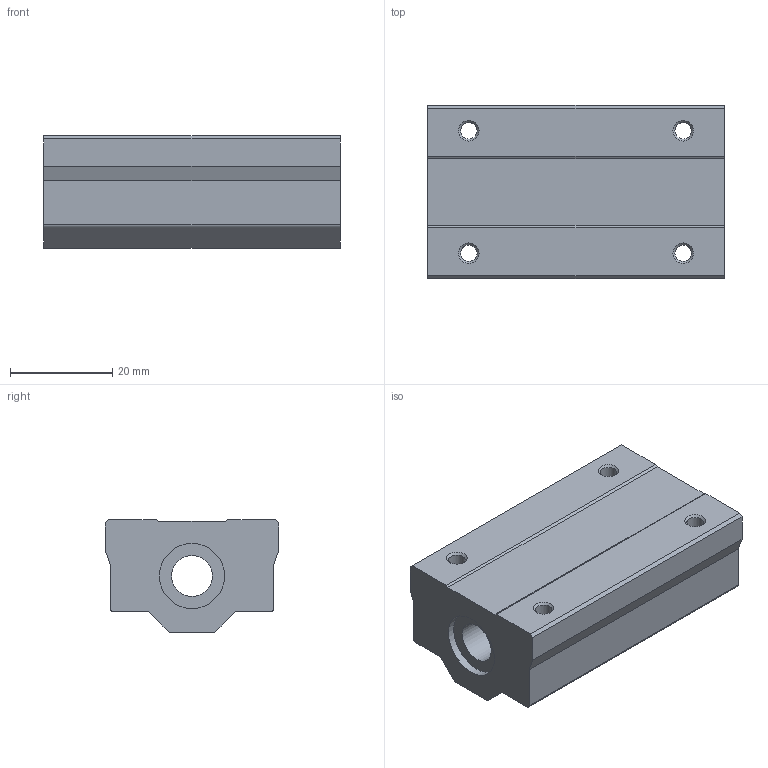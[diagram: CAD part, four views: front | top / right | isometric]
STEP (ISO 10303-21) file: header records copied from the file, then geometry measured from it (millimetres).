
FILE_DESCRIPTION( ( 'Unknown' ), '1' );
FILE_NAME( 'D:/累诀/己绕皋墨飘肺葱胶/11-04-06_档搁累己/01_府聪绢何教/SC W/SC 8W.stp', 'Unknown', ( 'Unknown' ), ( 'Unknown' ), 'PSStep 11.0', 'Unknown', ' ' );
FILE_SCHEMA( ( 'AUTOMOTIVE_DESIGN { 1 0 10303 214 1 1 1 1 }' ) );
Length unit declared in the file: millimetre
Products named in the file (1): 1
Bounding box: 58 x 34 x 22 mm (x, y, z)
Volume: 33261.7 mm3; surface area: 9404.4 mm2
Topology: 1 solids, 1 shells, 39 faces, 108 edges, 73 vertices
Faces by surface type: plane 22, cylinder 13, cone 4
Full cylindrical faces by diameter (mm): 3.242 x8, 8 x1, 12.76 x2
Entity records: 1426 total; most frequent: DIRECTION 188, CARTESIAN_POINT 184, ORIENTED_EDGE 164, EDGE_CURVE 82, AXIS2_PLACEMENT_3D 66, EDGE_LOOP 66, VERTEX_POINT 62, LINE 56
